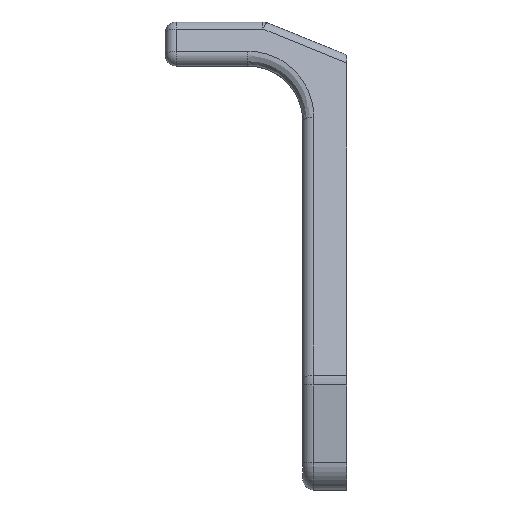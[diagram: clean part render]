
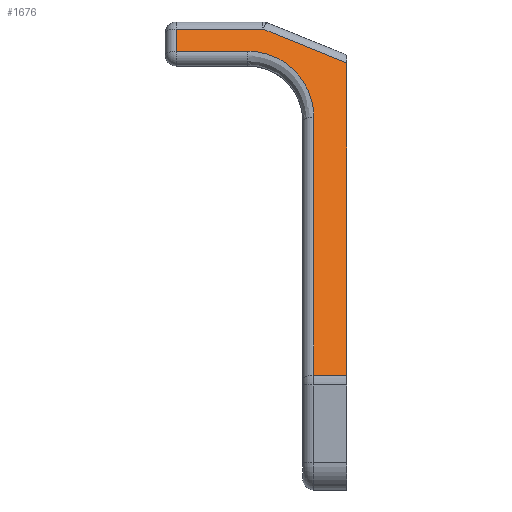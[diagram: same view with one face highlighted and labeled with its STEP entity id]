
A CAD part, left-side view. The second image highlights one B-rep face of the part: STEP entity #1676.
In plain terms, the highlighted planar face has unit normal (-0.933, 0, 0.359).
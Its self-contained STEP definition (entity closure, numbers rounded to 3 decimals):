
#95 = CARTESIAN_POINT ( 'NONE',  ( -45., 0., -35. ) ) ;
#97 = DIRECTION ( 'NONE',  ( 0.359, 0., 0.933 ) ) ;
#651 = CARTESIAN_POINT ( 'NONE',  ( -20.466, 15.413, 28.788 ) ) ;
#652 = DIRECTION ( 'NONE',  ( 0.143, 0.918, 0.371 ) ) ;
#653 = CARTESIAN_POINT ( 'NONE',  ( -20.493, 8., 28.718 ) ) ;
#654 = DIRECTION ( 'NONE',  ( 0., 1., 0. ) ) ;
#674 = CARTESIAN_POINT ( 'NONE',  ( -45., 31., -35. ) ) ;
#675 = DIRECTION ( 'NONE',  ( -0.359, 0., -0.933 ) ) ;
#676 = CARTESIAN_POINT ( 'NONE',  ( -22.032, 18., 24.718 ) ) ;
#677 = DIRECTION ( 'NONE',  ( 0., -1., 0. ) ) ;
#678 = CARTESIAN_POINT ( 'NONE',  ( -22.032, 18., 24.718 ) ) ;
#679 = CARTESIAN_POINT ( 'NONE',  ( -22.032, 10.971, 24.718 ) ) ;
#684 = CARTESIAN_POINT ( 'NONE',  ( -23.943, 6., 19.747 ) ) ;
#685 = CARTESIAN_POINT ( 'NONE',  ( -26.647, 6., 12.718 ) ) ;
#686 = CARTESIAN_POINT ( 'NONE',  ( -44.667, 6., -34.133 ) ) ;
#687 = DIRECTION ( 'NONE',  ( -0.359, 0., -0.933 ) ) ;
#688 = CARTESIAN_POINT ( 'NONE',  ( -44.667, 8., -34.133 ) ) ;
#690 = DIRECTION ( 'NONE',  ( 0., -1., 0. ) ) ;
#783 = CARTESIAN_POINT ( 'NONE',  ( -22.032, 31., 24.718 ) ) ;
#1148 = AXIS2_PLACEMENT_3D ( 'NONE', #2271, #2286, #2287 ) ;
#1191 = VECTOR ( 'NONE', #654, 1000. ) ;
#1194 = VECTOR ( 'NONE', #675, 1000. ) ;
#1197 = LINE ( 'NONE', #676, #1225 ) ;
#1205 = VECTOR ( 'NONE', #652, 1000. ) ;
#1219 = VECTOR ( 'NONE', #690, 1000. ) ;
#1222 = LINE ( 'NONE', #686, #1224 ) ;
#1223 = LINE ( 'NONE', #688, #1219 ) ;
#1224 = VECTOR ( 'NONE', #687, 1000. ) ;
#1225 = VECTOR ( 'NONE', #677, 1000. ) ;
#1246 = LINE ( 'NONE', #95, #1281 ) ;
#1267 = LINE ( 'NONE', #651, #1205 ) ;
#1269 = LINE ( 'NONE', #653, #1191 ) ;
#1280 = LINE ( 'NONE', #674, #1194 ) ;
#1281 = VECTOR ( 'NONE', #97, 1000. ) ;
#1676 = ADVANCED_FACE ( 'NONE', ( #3586 ), #2284, .F. ) ;
#2118 = CARTESIAN_POINT ( 'NONE',  ( -20.493, 31., 28.718 ) ) ;
#2130 = CARTESIAN_POINT ( 'NONE',  ( -20.493, 15.239, 28.718 ) ) ;
#2271 = CARTESIAN_POINT ( 'NONE',  ( -45., 8., -35. ) ) ;
#2284 = PLANE ( 'NONE',  #1148 ) ;
#2286 = DIRECTION ( 'NONE',  ( 0.933, 0., -0.359 ) ) ;
#2287 = DIRECTION ( 'NONE',  ( -0.359, 0., -0.933 ) ) ;
#3120 = CARTESIAN_POINT ( 'NONE',  ( -22.861, 0., 22.561 ) ) ;
#3375 = EDGE_LOOP ( 'NONE', ( #4004, #4057, #3998, #4053, #3994, #4049, #4022, #4043 ) ) ;
#3586 = FACE_OUTER_BOUND ( 'NONE', #3375, .T. ) ;
#3674 = CARTESIAN_POINT ( 'NONE',  ( -26.647, 6., 12.718 ) ) ;
#3763 = CARTESIAN_POINT ( 'NONE',  ( -44.667, 0., -34.133 ) ) ;
#3764 = CARTESIAN_POINT ( 'NONE',  ( -44.667, 6., -34.133 ) ) ;
#3765 = CARTESIAN_POINT ( 'NONE',  ( -22.032, 18., 24.718 ) ) ;
#3994 = ORIENTED_EDGE ( 'NONE', *, *, #5021, .T. ) ;
#3998 = ORIENTED_EDGE ( 'NONE', *, *, #5019, .T. ) ;
#4004 = ORIENTED_EDGE ( 'NONE', *, *, #5016, .T. ) ;
#4022 = ORIENTED_EDGE ( 'NONE', *, *, #5005, .T. ) ;
#4043 = ORIENTED_EDGE ( 'NONE', *, *, #5006, .T. ) ;
#4049 = ORIENTED_EDGE ( 'NONE', *, *, #4885, .T. ) ;
#4053 = ORIENTED_EDGE ( 'NONE', *, *, #5020, .T. ) ;
#4057 = ORIENTED_EDGE ( 'NONE', *, *, #5017, .T. ) ;
#4290 =( BOUNDED_CURVE ( )  B_SPLINE_CURVE ( 3, ( #678, #679, #684, #685 ),
 .UNSPECIFIED., .F., .T. ) 
 B_SPLINE_CURVE_WITH_KNOTS ( ( 4, 4 ),
 ( 3.142, 4.712 ),
 .UNSPECIFIED. ) 
 CURVE ( )  GEOMETRIC_REPRESENTATION_ITEM ( )  RATIONAL_B_SPLINE_CURVE ( ( 1., 0.805, 0.805, 1. ) ) 
 REPRESENTATION_ITEM ( '' )  );
#4331 = VERTEX_POINT ( 'NONE', #3120 ) ;
#4353 = VERTEX_POINT ( 'NONE', #3674 ) ;
#4427 = VERTEX_POINT ( 'NONE', #3763 ) ;
#4432 = VERTEX_POINT ( 'NONE', #3765 ) ;
#4436 = VERTEX_POINT ( 'NONE', #3764 ) ;
#4446 = VERTEX_POINT ( 'NONE', #2118 ) ;
#4452 = VERTEX_POINT ( 'NONE', #2130 ) ;
#4885 = EDGE_CURVE ( 'NONE', #4427, #4331, #1246, .T. ) ;
#5005 = EDGE_CURVE ( 'NONE', #4331, #4452, #1267, .T. ) ;
#5006 = EDGE_CURVE ( 'NONE', #4452, #4446, #1269, .T. ) ;
#5016 = EDGE_CURVE ( 'NONE', #4446, #5118, #1280, .T. ) ;
#5017 = EDGE_CURVE ( 'NONE', #5118, #4432, #1197, .T. ) ;
#5019 = EDGE_CURVE ( 'NONE', #4432, #4353, #4290, .T. ) ;
#5020 = EDGE_CURVE ( 'NONE', #4353, #4436, #1222, .T. ) ;
#5021 = EDGE_CURVE ( 'NONE', #4436, #4427, #1223, .T. ) ;
#5118 = VERTEX_POINT ( 'NONE', #783 ) ;
